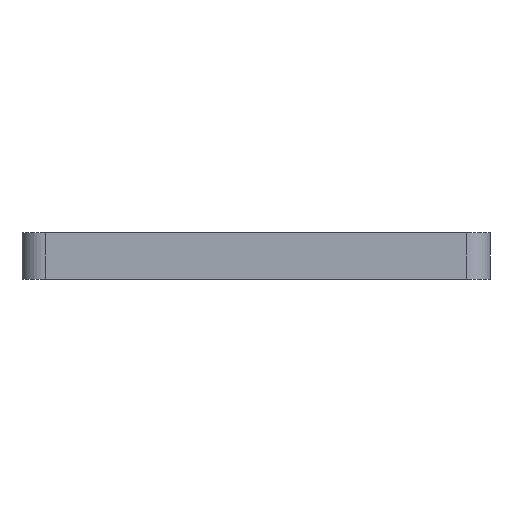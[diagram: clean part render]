
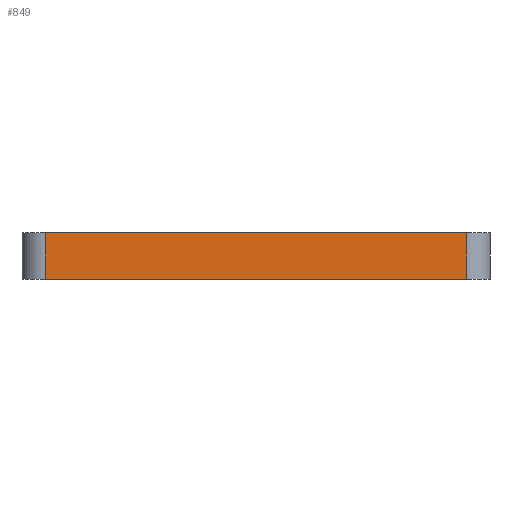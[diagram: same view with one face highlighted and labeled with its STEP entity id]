
A CAD part, left-side view. The second image highlights one B-rep face of the part: STEP entity #849.
In plain terms, the highlighted planar face has unit normal (-1, 0, 0).
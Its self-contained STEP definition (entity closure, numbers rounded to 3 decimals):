
#4 = CARTESIAN_POINT ( 'NONE',  ( -22.5, 19., 0. ) ) ;
#50 = VERTEX_POINT ( 'NONE', #941 ) ;
#98 = VECTOR ( 'NONE', #634, 1000. ) ;
#104 = VECTOR ( 'NONE', #167, 1000. ) ;
#161 = ORIENTED_EDGE ( 'NONE', *, *, #472, .F. ) ;
#167 = DIRECTION ( 'NONE',  ( 0., -1., 0. ) ) ;
#173 = CARTESIAN_POINT ( 'NONE',  ( -22.5, 20., 2. ) ) ;
#179 = EDGE_LOOP ( 'NONE', ( #650, #725, #161, #258 ) ) ;
#195 = CARTESIAN_POINT ( 'NONE',  ( -22.5, 20., 2. ) ) ;
#203 = EDGE_CURVE ( 'NONE', #208, #641, #468, .T. ) ;
#208 = VERTEX_POINT ( 'NONE', #4 ) ;
#249 = LINE ( 'NONE', #173, #104 ) ;
#258 = ORIENTED_EDGE ( 'NONE', *, *, #758, .T. ) ;
#261 = FACE_OUTER_BOUND ( 'NONE', #179, .T. ) ;
#274 = PLANE ( 'NONE',  #562 ) ;
#453 = VECTOR ( 'NONE', #954, 1000. ) ;
#468 = LINE ( 'NONE', #926, #453 ) ;
#472 = EDGE_CURVE ( 'NONE', #50, #905, #249, .T. ) ;
#536 = VECTOR ( 'NONE', #765, 1000. ) ;
#560 = CARTESIAN_POINT ( 'NONE',  ( -22.5, 1., 0. ) ) ;
#562 = AXIS2_PLACEMENT_3D ( 'NONE', #195, #568, #609 ) ;
#568 = DIRECTION ( 'NONE',  ( 1., 0., 0. ) ) ;
#609 = DIRECTION ( 'NONE',  ( 0., 1., 0. ) ) ;
#616 = EDGE_CURVE ( 'NONE', #641, #905, #836, .T. ) ;
#634 = DIRECTION ( 'NONE',  ( 0., 0., 1. ) ) ;
#641 = VERTEX_POINT ( 'NONE', #560 ) ;
#650 = ORIENTED_EDGE ( 'NONE', *, *, #203, .T. ) ;
#663 = CARTESIAN_POINT ( 'NONE',  ( -22.5, 1., 2. ) ) ;
#725 = ORIENTED_EDGE ( 'NONE', *, *, #616, .T. ) ;
#758 = EDGE_CURVE ( 'NONE', #50, #208, #942, .T. ) ;
#765 = DIRECTION ( 'NONE',  ( 0., 0., -1. ) ) ;
#780 = CARTESIAN_POINT ( 'NONE',  ( -22.5, 19., 2. ) ) ;
#836 = LINE ( 'NONE', #663, #98 ) ;
#842 = CARTESIAN_POINT ( 'NONE',  ( -22.5, 1., 2. ) ) ;
#849 = ADVANCED_FACE ( 'NONE', ( #261 ), #274, .F. ) ;
#905 = VERTEX_POINT ( 'NONE', #842 ) ;
#926 = CARTESIAN_POINT ( 'NONE',  ( -22.5, 20., 0. ) ) ;
#941 = CARTESIAN_POINT ( 'NONE',  ( -22.5, 19., 2. ) ) ;
#942 = LINE ( 'NONE', #780, #536 ) ;
#954 = DIRECTION ( 'NONE',  ( 0., -1., 0. ) ) ;
